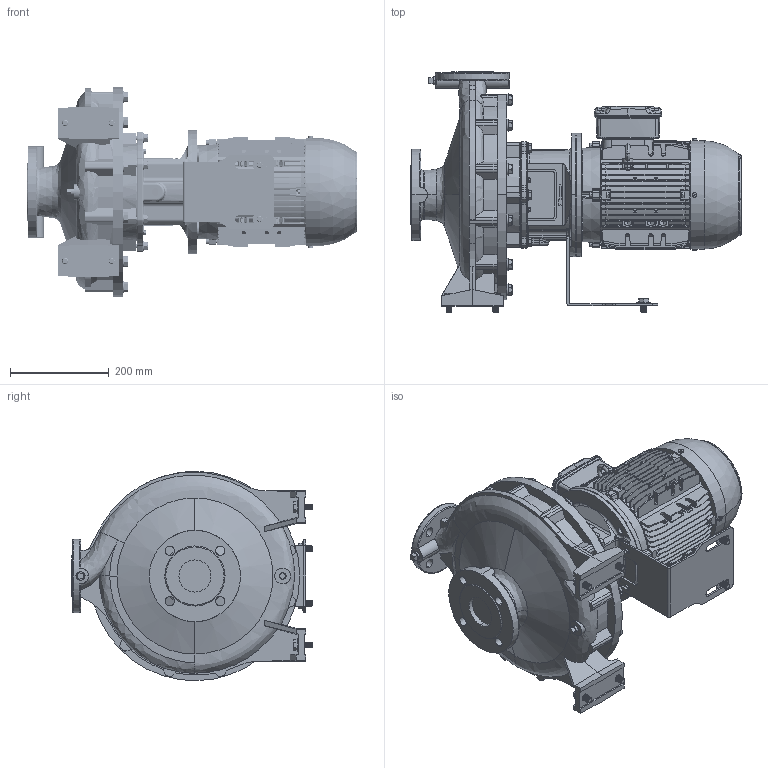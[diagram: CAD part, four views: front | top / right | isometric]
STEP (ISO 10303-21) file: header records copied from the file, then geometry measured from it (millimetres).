
FILE_DESCRIPTION (( 'STEP AP214' ), '1' );
FILE_NAME ('GSD4 40-315_4.0_(112M)_W21.STEP', '2026-06-18T05:56:31', ( '' ), ( '' ), 'SwSTEP 2.0', 'SolidWorks 2024', '' );
FILE_SCHEMA (( 'AUTOMOTIVE_DESIGN' ));
Length unit declared in the file: millimetre
Products named in the file (9): Parametric bolt and washer_SFT-A295B; Parametric bolt and washer_SFT-A299B; CGSD1-41A3; 112M ALIE3_W21T_B5; GSD4 40-315_4.0_(112M)_W21; Parametric bolt_SFT-A299B; Parametric bolt_SFT-A295B; Parametric Flat Washer_M12; 40-315-112M_ﾃﾞﾌｫﾙﾄ
Assembly tree (13 placements, depth 3):
  GSD4 40-315_4.0_(112M)_W21
    40-315-112M_ﾃﾞﾌｫﾙﾄ
    112M ALIE3_W21T_B5
    CGSD1-41A3
    Parametric bolt and washer_SFT-A299B  x4
      Parametric bolt_SFT-A299B
      Parametric Flat Washer_M12
    Parametric bolt and washer_SFT-A295B  x2
      Parametric bolt_SFT-A295B
      Parametric Flat Washer_M12
Bounding box: 670.1 x 488 x 425 mm (x, y, z)
Volume: 26679070.7 mm3; surface area: 1739974.4 mm2
Topology: 28 solids, 29 shells, 4743 faces, 12551 edges, 8135 vertices
Faces by surface type: plane 2454, cylinder 1060, bspline 509, cone 364, torus 342, sphere 14
Entity records: 216789 total; most frequent: CARTESIAN_POINT 111056, ORIENTED_EDGE 23792, DIRECTION 19118, EDGE_CURVE 11896, VERTEX_POINT 7722, VECTOR 6386, LINE 6386, AXIS2_PLACEMENT_3D 6366
